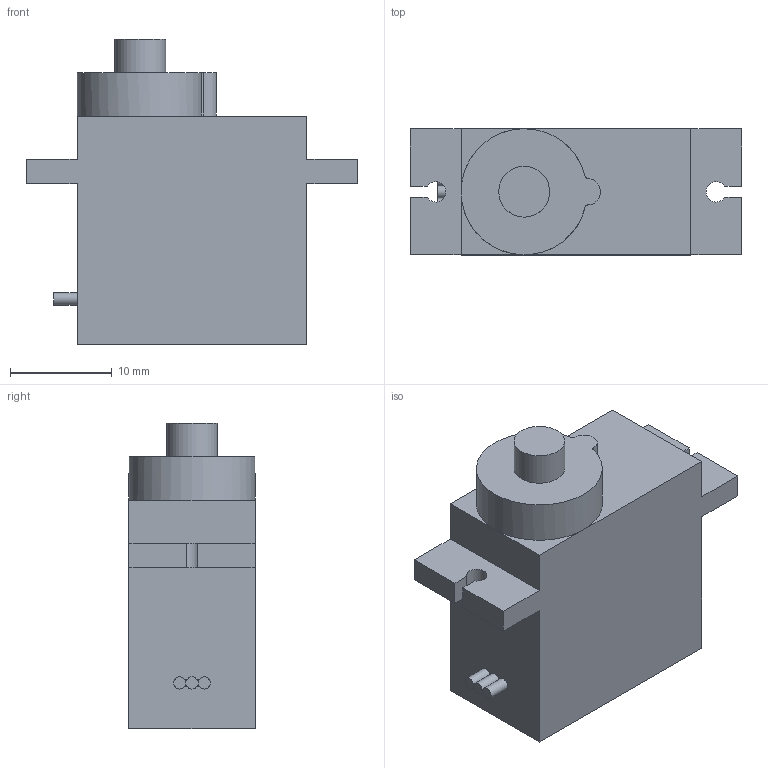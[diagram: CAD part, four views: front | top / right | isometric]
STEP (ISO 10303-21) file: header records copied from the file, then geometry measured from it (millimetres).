
FILE_DESCRIPTION(/* description */ (''),/* implementation_level */ '2;1');
FILE_NAME(/* name */ 'Servo motor micro 9g.step',/* time_stamp */ '2024-01-03T12:19:20+05:30',/* author */ (''),/* organization */ (''),/* preprocessor_version */ 'ST-DEVELOPER v20',/* originating_system */ 'Autodesk Translation Framework v12.14.0.127',/* authorisation */ '');
FILE_SCHEMA (('AUTOMOTIVE_DESIGN { 1 0 10303 214 3 1 1 }'));
Length unit declared in the file: millimetre
Products named in the file (1): Servo motor micro 9g
Bounding box: 32.6 x 12.4 x 30.05 mm (x, y, z)
Volume: 7177.4 mm3; surface area: 2704.4 mm2
Topology: 4 solids, 4 shells, 40 faces, 90 edges, 59 vertices
Faces by surface type: plane 30, cylinder 10
Full cylindrical faces by diameter (mm): 1.2 x3, 5 x1
Entity records: 1143 total; most frequent: DIRECTION 195, CARTESIAN_POINT 190, ORIENTED_EDGE 180, EDGE_CURVE 90, LINE 67, VECTOR 67, AXIS2_PLACEMENT_3D 64, VERTEX_POINT 59
